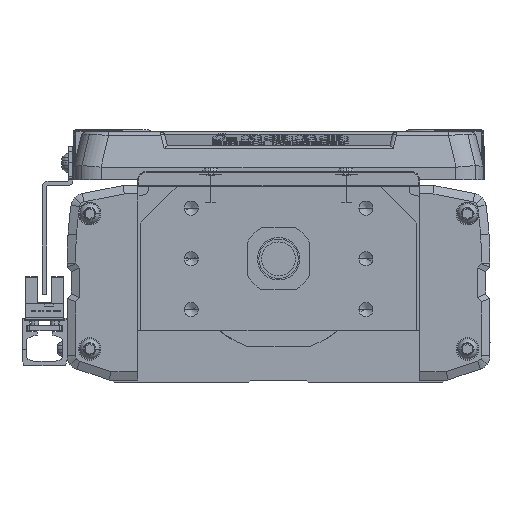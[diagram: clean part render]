
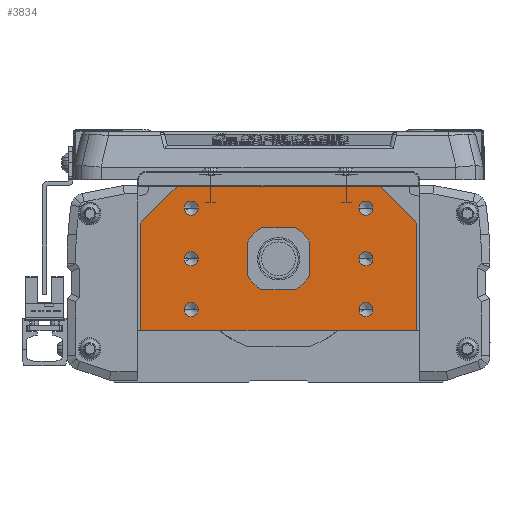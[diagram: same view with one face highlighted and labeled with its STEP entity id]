
A CAD part, left-side view. The second image highlights one B-rep face of the part: STEP entity #3834.
In plain terms, the highlighted planar face has unit normal (-1, 0, 0).
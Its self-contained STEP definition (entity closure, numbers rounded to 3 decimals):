
#3834=ADVANCED_FACE('',(#9725,#9726,#9727,#9728,#9729,#9730,#9731,#9732),#9733,.F.);
#9725=FACE_OUTER_BOUND('',#18438,.T.);
#9726=FACE_BOUND('',#18439,.T.);
#9727=FACE_BOUND('',#18440,.T.);
#9728=FACE_BOUND('',#18441,.T.);
#9729=FACE_BOUND('',#18442,.T.);
#9730=FACE_BOUND('',#18443,.T.);
#9731=FACE_BOUND('',#18444,.T.);
#9732=FACE_BOUND('',#18445,.T.);
#9733=PLANE('',#18446);
#18438=EDGE_LOOP('',(#29834,#29835,#29836,#29837,#29838,#29839,#29840,#29841));
#18439=EDGE_LOOP('',(#29842,#29843));
#18440=EDGE_LOOP('',(#29844,#29845));
#18441=EDGE_LOOP('',(#29846,#29847));
#18442=EDGE_LOOP('',(#29848,#29849));
#18443=EDGE_LOOP('',(#29850,#29851));
#18444=EDGE_LOOP('',(#29852,#29853));
#18445=EDGE_LOOP('',(#29854,#29855));
#18446=AXIS2_PLACEMENT_3D('',#29856,#29857,#29858);
#29834=ORIENTED_EDGE('',*,*,#52427,.F.);
#29835=ORIENTED_EDGE('',*,*,#52428,.F.);
#29836=ORIENTED_EDGE('',*,*,#52429,.F.);
#29837=ORIENTED_EDGE('',*,*,#52430,.F.);
#29838=ORIENTED_EDGE('',*,*,#52431,.F.);
#29839=ORIENTED_EDGE('',*,*,#51940,.F.);
#29840=ORIENTED_EDGE('',*,*,#52432,.F.);
#29841=ORIENTED_EDGE('',*,*,#52433,.F.);
#29842=ORIENTED_EDGE('',*,*,#51715,.T.);
#29843=ORIENTED_EDGE('',*,*,#52434,.T.);
#29844=ORIENTED_EDGE('',*,*,#52435,.T.);
#29845=ORIENTED_EDGE('',*,*,#52436,.T.);
#29846=ORIENTED_EDGE('',*,*,#52437,.T.);
#29847=ORIENTED_EDGE('',*,*,#52438,.T.);
#29848=ORIENTED_EDGE('',*,*,#52439,.T.);
#29849=ORIENTED_EDGE('',*,*,#52440,.T.);
#29850=ORIENTED_EDGE('',*,*,#52441,.T.);
#29851=ORIENTED_EDGE('',*,*,#52442,.T.);
#29852=ORIENTED_EDGE('',*,*,#51907,.T.);
#29853=ORIENTED_EDGE('',*,*,#52443,.T.);
#29854=ORIENTED_EDGE('',*,*,#52444,.F.);
#29855=ORIENTED_EDGE('',*,*,#52445,.F.);
#29856=CARTESIAN_POINT('',(0.,0.275,-2.548));
#29857=DIRECTION('',(1.0,0.,0.));
#29858=DIRECTION('',(0.,1.0,0.));
#51715=EDGE_CURVE('',#61949,#61953,#61955,.T.);
#51907=EDGE_CURVE('',#62281,#62285,#62287,.T.);
#51940=EDGE_CURVE('',#62339,#62342,#62343,.T.);
#52427=EDGE_CURVE('',#63179,#63180,#63181,.T.);
#52428=EDGE_CURVE('',#63182,#63179,#63183,.T.);
#52429=EDGE_CURVE('',#63184,#63182,#63185,.T.);
#52430=EDGE_CURVE('',#63186,#63184,#63187,.T.);
#52431=EDGE_CURVE('',#62342,#63186,#63188,.T.);
#52432=EDGE_CURVE('',#63189,#62339,#63190,.T.);
#52433=EDGE_CURVE('',#63180,#63189,#63191,.T.);
#52434=EDGE_CURVE('',#61953,#61949,#63192,.T.);
#52435=EDGE_CURVE('',#63193,#63194,#63195,.T.);
#52436=EDGE_CURVE('',#63194,#63193,#63196,.T.);
#52437=EDGE_CURVE('',#63197,#63198,#63199,.T.);
#52438=EDGE_CURVE('',#63198,#63197,#63200,.T.);
#52439=EDGE_CURVE('',#63201,#63202,#63203,.T.);
#52440=EDGE_CURVE('',#63202,#63201,#63204,.T.);
#52441=EDGE_CURVE('',#63205,#63206,#63207,.T.);
#52442=EDGE_CURVE('',#63206,#63205,#63208,.T.);
#52443=EDGE_CURVE('',#62285,#62281,#63209,.T.);
#52444=EDGE_CURVE('',#63210,#63211,#63212,.F.);
#52445=EDGE_CURVE('',#63211,#63210,#63213,.F.);
#61949=VERTEX_POINT('',#76429);
#61953=VERTEX_POINT('',#76434);
#61955=CIRCLE('',#76437,2.5);
#62281=VERTEX_POINT('',#76919);
#62285=VERTEX_POINT('',#76924);
#62287=CIRCLE('',#76927,2.5);
#62339=VERTEX_POINT('',#76995);
#62342=VERTEX_POINT('',#76999);
#62343=LINE('',#77000,#77001);
#63179=VERTEX_POINT('',#78699);
#63180=VERTEX_POINT('',#78700);
#63181=LINE('',#78701,#78702);
#63182=VERTEX_POINT('',#78703);
#63183=LINE('',#78704,#78705);
#63184=VERTEX_POINT('',#78706);
#63185=LINE('',#78707,#78708);
#63186=VERTEX_POINT('',#78709);
#63187=LINE('',#78710,#78711);
#63188=LINE('',#78712,#78713);
#63189=VERTEX_POINT('',#78714);
#63190=LINE('',#78715,#78716);
#63191=LINE('',#78717,#78718);
#63192=CIRCLE('',#78719,2.5);
#63193=VERTEX_POINT('',#78720);
#63194=VERTEX_POINT('',#78721);
#63195=CIRCLE('',#78722,2.5);
#63196=CIRCLE('',#78723,2.5);
#63197=VERTEX_POINT('',#78724);
#63198=VERTEX_POINT('',#78725);
#63199=CIRCLE('',#78726,2.5);
#63200=CIRCLE('',#78727,2.5);
#63201=VERTEX_POINT('',#78728);
#63202=VERTEX_POINT('',#78729);
#63203=CIRCLE('',#78730,2.5);
#63204=CIRCLE('',#78731,2.5);
#63205=VERTEX_POINT('',#78732);
#63206=VERTEX_POINT('',#78733);
#63207=CIRCLE('',#78734,2.5);
#63208=CIRCLE('',#78735,2.5);
#63209=CIRCLE('',#78736,2.5);
#63210=VERTEX_POINT('',#78737);
#63211=VERTEX_POINT('',#78738);
#63212=CIRCLE('',#78739,7.5);
#63213=CIRCLE('',#78740,7.5);
#76429=CARTESIAN_POINT('',(0.,33.5,-18.));
#76434=CARTESIAN_POINT('',(0.,28.5,-18.));
#76437=AXIS2_PLACEMENT_3D('',#94810,#94811,#94812);
#76919=CARTESIAN_POINT('',(0.,-33.5,0.));
#76924=CARTESIAN_POINT('',(0.,-28.5,0.));
#76927=AXIS2_PLACEMENT_3D('',#95066,#95067,#95068);
#76995=CARTESIAN_POINT('',(0.,-49.,12.7));
#76999=CARTESIAN_POINT('',(0.,-49.,-25.));
#77000=CARTESIAN_POINT('',(0.,-49.,-14.));
#77001=VECTOR('',#95107,10.0);
#78699=CARTESIAN_POINT('',(0.,49.,12.7));
#78700=CARTESIAN_POINT('',(0.,36.,25.7));
#78701=CARTESIAN_POINT('',(0.,37.381,24.319));
#78702=VECTOR('',#95711,10.);
#78703=CARTESIAN_POINT('',(0.,49.,-25.));
#78704=CARTESIAN_POINT('',(0.,49.,-25.));
#78705=VECTOR('',#95712,10.0);
#78706=CARTESIAN_POINT('',(0.,48.5,-25.5));
#78707=CARTESIAN_POINT('',(0.,48.5,-25.5));
#78708=VECTOR('',#95713,10.0);
#78709=CARTESIAN_POINT('',(0.,-48.5,-25.5));
#78710=CARTESIAN_POINT('',(0.,0.,-25.5));
#78711=VECTOR('',#95714,10.0);
#78712=CARTESIAN_POINT('',(0.,-49.,-25.));
#78713=VECTOR('',#95715,10.0);
#78714=CARTESIAN_POINT('',(0.,-36.,25.7));
#78715=CARTESIAN_POINT('',(0.,-37.243,24.457));
#78716=VECTOR('',#95716,10.0);
#78717=CARTESIAN_POINT('',(0.,34.5,25.7));
#78718=VECTOR('',#95717,10.0);
#78719=AXIS2_PLACEMENT_3D('',#95718,#95719,#95720);
#78720=CARTESIAN_POINT('',(0.,-33.5,-18.));
#78721=CARTESIAN_POINT('',(0.,-28.5,-18.));
#78722=AXIS2_PLACEMENT_3D('',#95721,#95722,#95723);
#78723=AXIS2_PLACEMENT_3D('',#95724,#95725,#95726);
#78724=CARTESIAN_POINT('',(0.,33.5,18.));
#78725=CARTESIAN_POINT('',(0.,28.5,18.));
#78726=AXIS2_PLACEMENT_3D('',#95727,#95728,#95729);
#78727=AXIS2_PLACEMENT_3D('',#95730,#95731,#95732);
#78728=CARTESIAN_POINT('',(0.,-33.5,18.));
#78729=CARTESIAN_POINT('',(0.,-28.5,18.));
#78730=AXIS2_PLACEMENT_3D('',#95733,#95734,#95735);
#78731=AXIS2_PLACEMENT_3D('',#95736,#95737,#95738);
#78732=CARTESIAN_POINT('',(0.,33.5,0.));
#78733=CARTESIAN_POINT('',(0.,28.5,0.));
#78734=AXIS2_PLACEMENT_3D('',#95739,#95740,#95741);
#78735=AXIS2_PLACEMENT_3D('',#95742,#95743,#95744);
#78736=AXIS2_PLACEMENT_3D('',#95745,#95746,#95747);
#78737=CARTESIAN_POINT('',(0.,7.5,0.));
#78738=CARTESIAN_POINT('',(0.,-7.5,0.));
#78739=AXIS2_PLACEMENT_3D('',#95748,#95749,#95750);
#78740=AXIS2_PLACEMENT_3D('',#95751,#95752,#95753);
#94810=CARTESIAN_POINT('',(0.,31.,-18.));
#94811=DIRECTION('',(1.0,0.,0.));
#94812=DIRECTION('',(0.,1.0,0.));
#95066=CARTESIAN_POINT('',(0.,-31.,0.));
#95067=DIRECTION('',(1.0,0.,0.));
#95068=DIRECTION('',(0.,-1.0,0.));
#95107=DIRECTION('',(0.,0.,-1.0));
#95711=DIRECTION('',(0.,-0.707,0.707));
#95712=DIRECTION('',(0.,0.,1.0));
#95713=DIRECTION('',(0.,0.707,0.707));
#95714=DIRECTION('',(0.,1.0,0.));
#95715=DIRECTION('',(0.,0.707,-0.707));
#95716=DIRECTION('',(0.,-0.707,-0.707));
#95717=DIRECTION('',(0.,-1.0,0.));
#95718=CARTESIAN_POINT('',(0.,31.,-18.));
#95719=DIRECTION('',(1.0,0.,0.));
#95720=DIRECTION('',(0.,1.0,0.));
#95721=CARTESIAN_POINT('',(0.,-31.,-18.));
#95722=DIRECTION('',(1.0,0.,0.));
#95723=DIRECTION('',(0.,-1.0,0.));
#95724=CARTESIAN_POINT('',(0.,-31.,-18.));
#95725=DIRECTION('',(1.0,0.,0.));
#95726=DIRECTION('',(0.,-1.0,0.));
#95727=CARTESIAN_POINT('',(0.,31.,18.));
#95728=DIRECTION('',(1.0,0.,0.));
#95729=DIRECTION('',(0.,1.0,0.));
#95730=CARTESIAN_POINT('',(0.,31.,18.));
#95731=DIRECTION('',(1.0,0.,0.));
#95732=DIRECTION('',(0.,1.0,0.));
#95733=CARTESIAN_POINT('',(0.,-31.,18.));
#95734=DIRECTION('',(1.0,0.,0.));
#95735=DIRECTION('',(0.,-1.0,0.));
#95736=CARTESIAN_POINT('',(0.,-31.,18.));
#95737=DIRECTION('',(1.0,0.,0.));
#95738=DIRECTION('',(0.,-1.0,0.));
#95739=CARTESIAN_POINT('',(0.,31.,0.));
#95740=DIRECTION('',(1.0,0.,0.));
#95741=DIRECTION('',(0.,1.0,0.));
#95742=CARTESIAN_POINT('',(0.,31.,0.));
#95743=DIRECTION('',(1.0,0.,0.));
#95744=DIRECTION('',(0.,1.0,0.));
#95745=CARTESIAN_POINT('',(0.,-31.,0.));
#95746=DIRECTION('',(1.0,0.,0.));
#95747=DIRECTION('',(0.,-1.0,0.));
#95748=CARTESIAN_POINT('',(0.,0.,0.));
#95749=DIRECTION('',(1.0,0.,0.));
#95750=DIRECTION('',(0.,-1.0,0.));
#95751=CARTESIAN_POINT('',(0.,0.,0.));
#95752=DIRECTION('',(1.0,0.,0.));
#95753=DIRECTION('',(0.,-1.0,0.));
